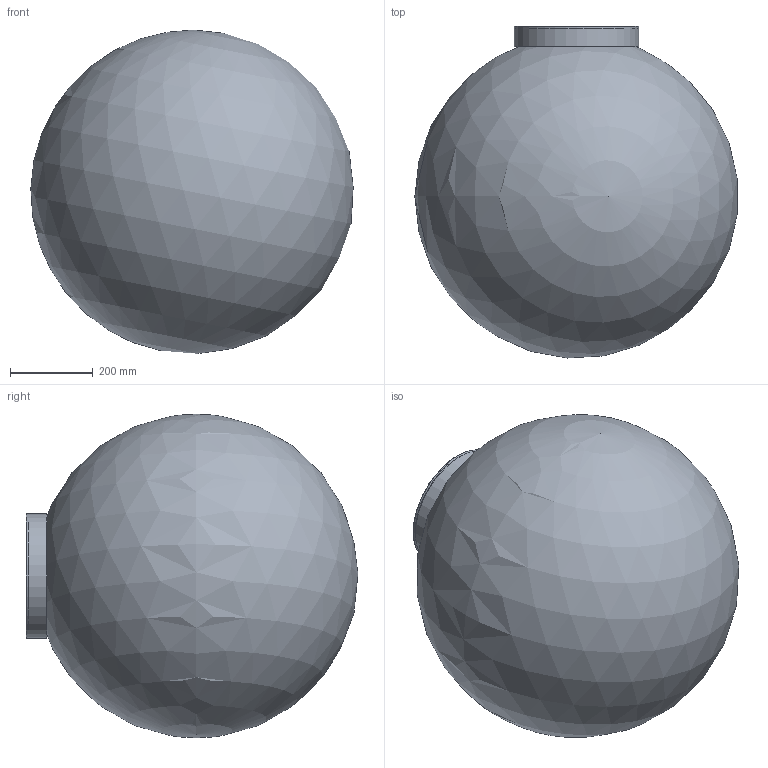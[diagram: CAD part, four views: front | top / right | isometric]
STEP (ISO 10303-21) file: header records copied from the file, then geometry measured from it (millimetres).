
FILE_DESCRIPTION(/* description */ (''),/* implementation_level */ '2;1');
FILE_NAME(/* name */ 'MOON 80 F.stp',/* time_stamp */ '2024-02-13T17:37:09+01:00',/* author */ ('n.bisotti'),/* organization */ (''),/* preprocessor_version */ 'ST-DEVELOPER v19.2',/* originating_system */ 'Autodesk Inventor 2023',/* authorisation */ '');
FILE_SCHEMA (('AUTOMOTIVE_DESIGN { 1 0 10303 214 3 1 1 }'));
Length unit declared in the file: centimetre
Products named in the file (1): Parte1
Bounding box: 777.23 x 800.34 x 779.76 mm (x, y, z)
Volume: 9608977.5 mm3; surface area: 4010543 mm2
Topology: 3 solids, 4 shells, 9 faces, 15 edges, 10 vertices
Faces by surface type: plane 4, cylinder 3, sphere 2
Full cylindrical faces by diameter (mm): 297 x2, 300 x1
Entity records: 261 total; most frequent: DIRECTION 39, CARTESIAN_POINT 31, ORIENTED_EDGE 22, AXIS2_PLACEMENT_3D 18, STYLED_ITEM 12, EDGE_LOOP 11, EDGE_CURVE 11, VERTEX_POINT 10
